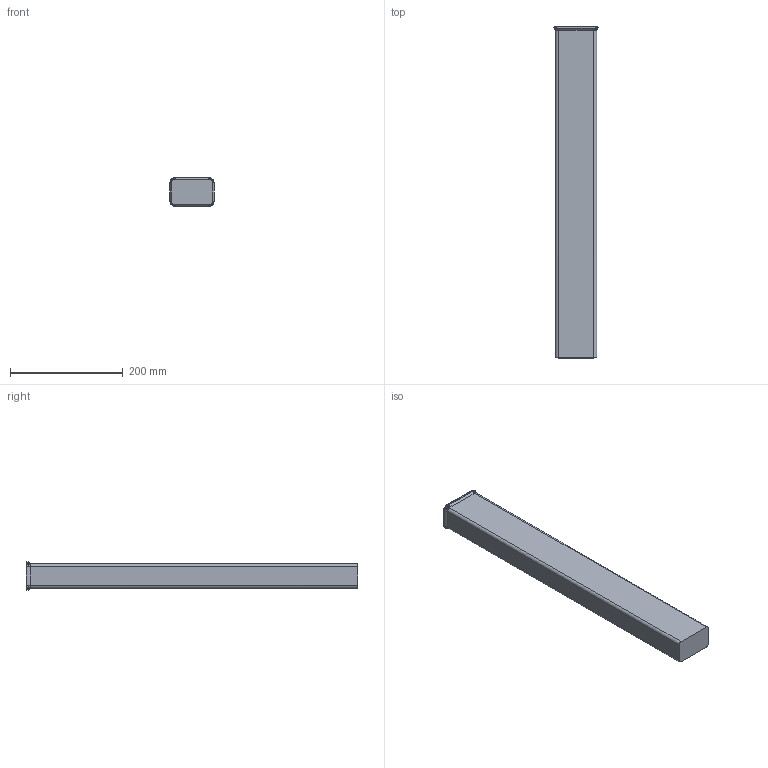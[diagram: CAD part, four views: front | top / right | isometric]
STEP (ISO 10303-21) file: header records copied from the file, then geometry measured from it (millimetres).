
FILE_DESCRIPTION((''),'2;1');
FILE_NAME('1041W7909-A-05-1_AF0','2020-08-21T08:36:25',('mbes'),(''),'CREO PARAMETRIC BY PTC INC, 2019344','CREO PARAMETRIC BY PTC INC, 2019344','');
FILE_SCHEMA(('AUTOMOTIVE_DESIGN { 1 0 10303 214 1 1 1 1 }'));
Length unit declared in the file: millimetre
Products named in the file (1): 1041W7909-A-05-1_AF0
Bounding box: 77.92 x 587.58 x 51.2 mm (x, y, z)
Volume: 1858072.7 mm3; surface area: 140168.4 mm2
Topology: 1 solids, 1 shells, 100 faces, 254 edges, 156 vertices
Faces by surface type: plane 30, cylinder 26, bspline 24, extrusion 8, cone 8, torus 4
Entity records: 4939 total; most frequent: CARTESIAN_POINT 2651, ORIENTED_EDGE 508, DIRECTION 372, EDGE_CURVE 254, VERTEX_POINT 156, AXIS2_PLACEMENT_3D 133, VECTOR 106, EDGE_LOOP 100
